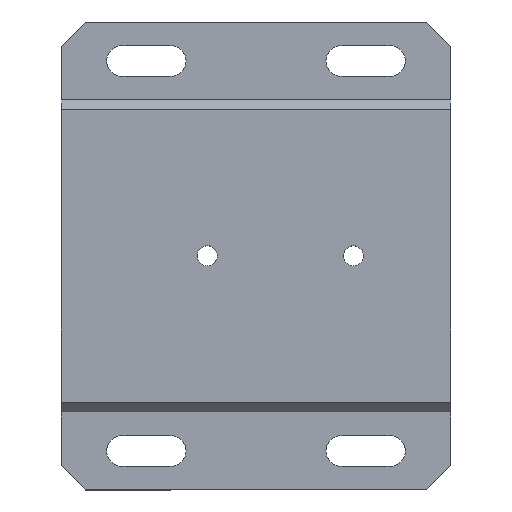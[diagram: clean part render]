
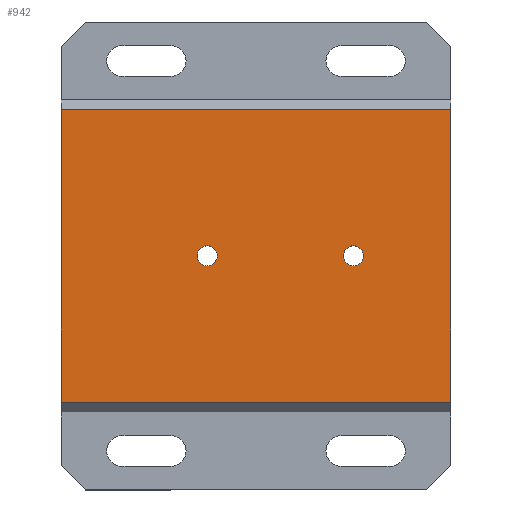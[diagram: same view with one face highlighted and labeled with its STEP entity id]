
A CAD part, top view. The second image highlights one B-rep face of the part: STEP entity #942.
In plain terms, the highlighted planar face has unit normal (0, 0, 1).
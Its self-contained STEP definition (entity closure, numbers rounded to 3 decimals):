
#22 = AXIS2_PLACEMENT_3D ( 'NONE', #1292, #214, #1094 ) ;
#39 = VERTEX_POINT ( 'NONE', #48 ) ;
#48 = CARTESIAN_POINT ( 'NONE',  ( -52.067, 0., 17.5 ) ) ;
#55 = CARTESIAN_POINT ( 'NONE',  ( -22.067, 0., 17.5 ) ) ;
#64 = CIRCLE ( 'NONE', #22, 2.067 ) ;
#93 = ORIENTED_EDGE ( 'NONE', *, *, #94, .T. ) ;
#94 = EDGE_CURVE ( 'NONE', #544, #1091, #848, .T. ) ;
#97 = FACE_BOUND ( 'NONE', #547, .T. ) ;
#100 = LINE ( 'NONE', #1231, #1437 ) ;
#162 = AXIS2_PLACEMENT_3D ( 'NONE', #1119, #1201, #335 ) ;
#214 = DIRECTION ( 'NONE',  ( 0., 0., 1. ) ) ;
#217 = VERTEX_POINT ( 'NONE', #55 ) ;
#261 = DIRECTION ( 'NONE',  ( -1., 0., 0. ) ) ;
#269 = CIRCLE ( 'NONE', #1172, 2.067 ) ;
#273 = DIRECTION ( 'NONE',  ( 0., 0., 1. ) ) ;
#280 = EDGE_CURVE ( 'NONE', #288, #39, #950, .T. ) ;
#284 = EDGE_LOOP ( 'NONE', ( #710, #920 ) ) ;
#288 = VERTEX_POINT ( 'NONE', #688 ) ;
#296 = CARTESIAN_POINT ( 'NONE',  ( 0., 30., 17.5 ) ) ;
#327 = CARTESIAN_POINT ( 'NONE',  ( -80., 32., 17.5 ) ) ;
#331 = DIRECTION ( 'NONE',  ( 0., 0., 1. ) ) ;
#332 = EDGE_CURVE ( 'NONE', #1188, #217, #269, .T. ) ;
#334 = LINE ( 'NONE', #757, #670 ) ;
#335 = DIRECTION ( 'NONE',  ( -1., 0., 0. ) ) ;
#347 = FACE_BOUND ( 'NONE', #284, .T. ) ;
#375 = ORIENTED_EDGE ( 'NONE', *, *, #615, .T. ) ;
#404 = DIRECTION ( 'NONE',  ( 0., -1., 0. ) ) ;
#476 = CARTESIAN_POINT ( 'NONE',  ( -80., -30., 17.5 ) ) ;
#478 = ORIENTED_EDGE ( 'NONE', *, *, #1213, .T. ) ;
#490 = EDGE_CURVE ( 'NONE', #39, #288, #64, .T. ) ;
#518 = CARTESIAN_POINT ( 'NONE',  ( 0., 0., 17.5 ) ) ;
#544 = VERTEX_POINT ( 'NONE', #296 ) ;
#547 = EDGE_LOOP ( 'NONE', ( #833, #981 ) ) ;
#556 = VERTEX_POINT ( 'NONE', #476 ) ;
#557 = CARTESIAN_POINT ( 'NONE',  ( -20., 0., 17.5 ) ) ;
#566 = ORIENTED_EDGE ( 'NONE', *, *, #660, .T. ) ;
#570 = DIRECTION ( 'NONE',  ( -1., 0., 0. ) ) ;
#615 = EDGE_CURVE ( 'NONE', #965, #544, #334, .T. ) ;
#653 = FACE_OUTER_BOUND ( 'NONE', #1203, .T. ) ;
#658 = CARTESIAN_POINT ( 'NONE',  ( -50., 0., 17.5 ) ) ;
#660 = EDGE_CURVE ( 'NONE', #1091, #556, #1288, .T. ) ;
#670 = VECTOR ( 'NONE', #827, 1000. ) ;
#679 = CARTESIAN_POINT ( 'NONE',  ( 0., 30., 17.5 ) ) ;
#680 = EDGE_CURVE ( 'NONE', #217, #1188, #740, .T. ) ;
#688 = CARTESIAN_POINT ( 'NONE',  ( -47.933, 0., 17.5 ) ) ;
#710 = ORIENTED_EDGE ( 'NONE', *, *, #332, .F. ) ;
#712 = AXIS2_PLACEMENT_3D ( 'NONE', #518, #273, #865 ) ;
#740 = CIRCLE ( 'NONE', #162, 2.067 ) ;
#750 = AXIS2_PLACEMENT_3D ( 'NONE', #658, #331, #261 ) ;
#757 = CARTESIAN_POINT ( 'NONE',  ( 0., -32., 17.5 ) ) ;
#808 = DIRECTION ( 'NONE',  ( 1., 0., 0. ) ) ;
#827 = DIRECTION ( 'NONE',  ( 0., 1., 0. ) ) ;
#833 = ORIENTED_EDGE ( 'NONE', *, *, #280, .F. ) ;
#848 = LINE ( 'NONE', #679, #871 ) ;
#865 = DIRECTION ( 'NONE',  ( 1., 0., 0. ) ) ;
#871 = VECTOR ( 'NONE', #570, 1000. ) ;
#920 = ORIENTED_EDGE ( 'NONE', *, *, #680, .F. ) ;
#939 = CARTESIAN_POINT ( 'NONE',  ( -80., 30., 17.5 ) ) ;
#942 = ADVANCED_FACE ( 'NONE', ( #97, #347, #653 ), #1259, .T. ) ;
#950 = CIRCLE ( 'NONE', #750, 2.067 ) ;
#965 = VERTEX_POINT ( 'NONE', #1074 ) ;
#981 = ORIENTED_EDGE ( 'NONE', *, *, #490, .F. ) ;
#1074 = CARTESIAN_POINT ( 'NONE',  ( 0., -30., 17.5 ) ) ;
#1091 = VERTEX_POINT ( 'NONE', #939 ) ;
#1094 = DIRECTION ( 'NONE',  ( -1., 0., 0. ) ) ;
#1119 = CARTESIAN_POINT ( 'NONE',  ( -20., 0., 17.5 ) ) ;
#1149 = DIRECTION ( 'NONE',  ( 0., 0., 1. ) ) ;
#1172 = AXIS2_PLACEMENT_3D ( 'NONE', #557, #1149, #1391 ) ;
#1188 = VERTEX_POINT ( 'NONE', #1430 ) ;
#1201 = DIRECTION ( 'NONE',  ( 0., 0., 1. ) ) ;
#1203 = EDGE_LOOP ( 'NONE', ( #566, #478, #375, #93 ) ) ;
#1213 = EDGE_CURVE ( 'NONE', #556, #965, #100, .T. ) ;
#1231 = CARTESIAN_POINT ( 'NONE',  ( 0., -30., 17.5 ) ) ;
#1259 = PLANE ( 'NONE',  #712 ) ;
#1288 = LINE ( 'NONE', #327, #1373 ) ;
#1292 = CARTESIAN_POINT ( 'NONE',  ( -50., 0., 17.5 ) ) ;
#1373 = VECTOR ( 'NONE', #404, 1000. ) ;
#1391 = DIRECTION ( 'NONE',  ( -1., 0., 0. ) ) ;
#1430 = CARTESIAN_POINT ( 'NONE',  ( -17.933, 0., 17.5 ) ) ;
#1437 = VECTOR ( 'NONE', #808, 1000. ) ;
